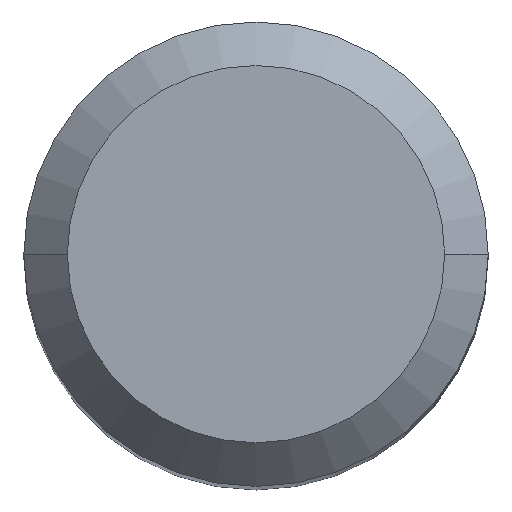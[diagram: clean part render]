
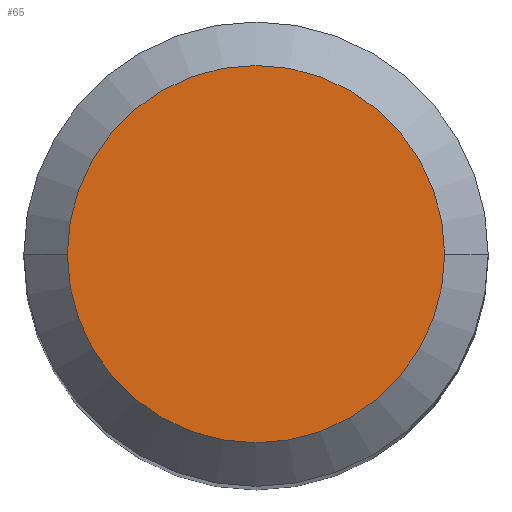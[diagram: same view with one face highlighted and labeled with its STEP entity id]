
A CAD part, top view. The second image highlights one B-rep face of the part: STEP entity #65.
In plain terms, the highlighted planar face has unit normal (0, 0, 1).
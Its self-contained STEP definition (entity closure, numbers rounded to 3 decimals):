
#65=ADVANCED_FACE('',(#125),#126,.T.);
#125=FACE_OUTER_BOUND('',#176,.T.);
#126=PLANE('',#177);
#176=EDGE_LOOP('',(#283,#284));
#177=AXIS2_PLACEMENT_3D('',#285,#286,#287);
#283=ORIENTED_EDGE('',*,*,#319,.T.);
#284=ORIENTED_EDGE('',*,*,#309,.T.);
#285=CARTESIAN_POINT('',(0.0,0.0,0.0));
#286=DIRECTION('',(0.0,0.0,1.0));
#287=DIRECTION('',(1.0,0.0,0.0));
#309=EDGE_CURVE('',#364,#362,#365,.T.);
#319=EDGE_CURVE('',#362,#364,#375,.T.);
#362=VERTEX_POINT('',#426);
#364=VERTEX_POINT('',#429);
#365=CIRCLE('',#430,3.25);
#375=CIRCLE('',#443,3.25);
#426=CARTESIAN_POINT('',(-3.25,0.0,0.0));
#429=CARTESIAN_POINT('',(3.25,0.,0.0));
#430=AXIS2_PLACEMENT_3D('',#481,#482,#483);
#443=AXIS2_PLACEMENT_3D('',#496,#497,#498);
#481=CARTESIAN_POINT('',(0.0,0.0,0.0));
#482=DIRECTION('',(0.0,0.0,1.0));
#483=DIRECTION('',(-1.0,0.0,0.0));
#496=CARTESIAN_POINT('',(0.0,0.0,0.0));
#497=DIRECTION('',(0.0,0.0,1.0));
#498=DIRECTION('',(-1.0,0.0,0.0));
